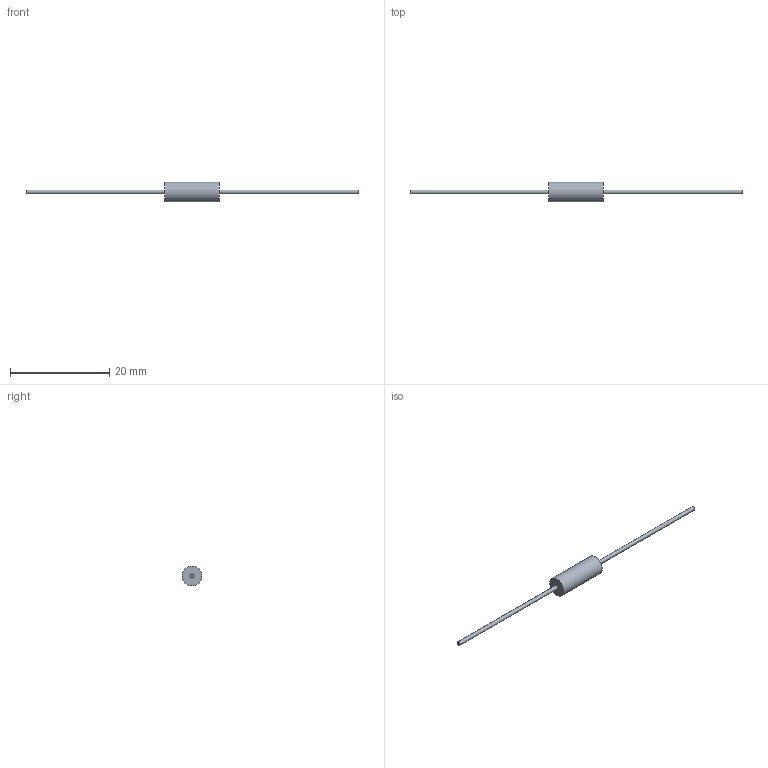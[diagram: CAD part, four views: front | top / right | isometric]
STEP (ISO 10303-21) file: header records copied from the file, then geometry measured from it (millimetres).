
FILE_DESCRIPTION(/* description */ (''),/* implementation_level */ '2;1');
FILE_NAME(/* name */ 'C:\Users\mulla\Documents\SEI Models\ASRM\ASRM1.stp',/* time_stamp */ '2019-06-06T16:46:22-04:00',/* author */ ('mulla'),/* organization */ (''),/* preprocessor_version */ 'ST-DEVELOPER v16.1',/* originating_system */ 'Autodesk Inventor 2016',/* authorisation */ '');
FILE_SCHEMA (('AUTOMOTIVE_DESIGN { 1 0 10303 214 3 1 1 }'));
Length unit declared in the file: millimetre
Products named in the file (1): ASRM1
Bounding box: 67 x 4 x 4 mm (x, y, z)
Volume: 166.4 mm3; surface area: 306.1 mm2
Topology: 3 solids, 3 shells, 9 faces, 9 edges, 6 vertices
Faces by surface type: plane 6, cylinder 3
Full cylindrical faces by diameter (mm): 0.8 x2, 4 x1
Entity records: 176 total; most frequent: DIRECTION 32, CARTESIAN_POINT 22, AXIS2_PLACEMENT_3D 16, EDGE_LOOP 12, ORIENTED_EDGE 12, FACE_OUTER_BOUND 9, ADVANCED_FACE 9, PLANE 6
